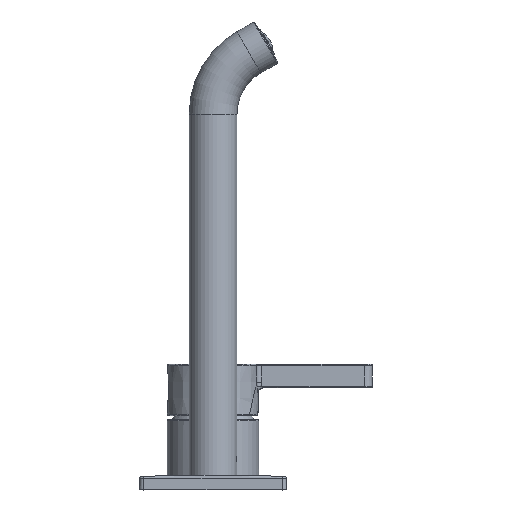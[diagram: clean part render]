
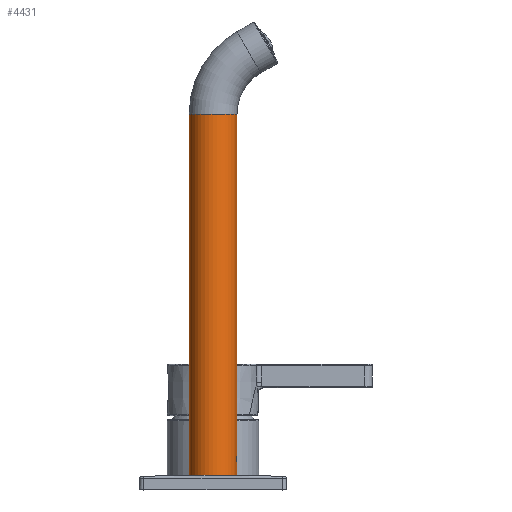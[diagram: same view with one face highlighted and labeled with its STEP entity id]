
A CAD part, left-side view. The second image highlights one B-rep face of the part: STEP entity #4431.
In plain terms, the highlighted cylindrical face has radius 12 mm (diameter 24 mm), a partial arc.
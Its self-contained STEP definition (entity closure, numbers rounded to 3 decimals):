
#749=CARTESIAN_POINT('',(-100.,-12.,37.977));
#751=DIRECTION('',(0.,0.,-1.));
#752=VECTOR('',#751,181.323);
#753=CARTESIAN_POINT('',(-100.,12.,209.));
#754=LINE('',#753,#752);
#789=CARTESIAN_POINT('',(-102.007,-11.831,35.26));
#790=CARTESIAN_POINT('',(-101.94,-11.842,35.041));
#791=CARTESIAN_POINT('',(-101.744,-11.875,34.647));
#792=CARTESIAN_POINT('',(-101.268,-11.937,34.157));
#793=CARTESIAN_POINT('',(-100.663,-11.987,33.849));
#794=CARTESIAN_POINT('',(-100.229,-12.,33.777));
#795=CARTESIAN_POINT('',(-100.,-12.,33.777));
#797=DIRECTION('',(0.,0.,-1.));
#798=VECTOR('',#797,6.1);
#799=CARTESIAN_POINT('',(-100.,-12.,33.777));
#800=LINE('',#799,#798);
#801=DIRECTION('',(0.,0.,-1.));
#802=VECTOR('',#801,171.023);
#803=CARTESIAN_POINT('',(-100.,-12.,209.));
#804=LINE('',#803,#802);
#805=CARTESIAN_POINT('',(-100.,-12.,37.977));
#806=CARTESIAN_POINT('',(-100.228,-12.,37.977));
#807=CARTESIAN_POINT('',(-100.661,-11.987,37.907));
#808=CARTESIAN_POINT('',(-101.265,-11.937,37.599));
#809=CARTESIAN_POINT('',(-101.742,-11.875,37.111));
#810=CARTESIAN_POINT('',(-101.939,-11.842,36.715));
#811=CARTESIAN_POINT('',(-102.007,-11.831,36.495));
#813=CARTESIAN_POINT('',(-102.007,-11.831,35.26));
#814=CARTESIAN_POINT('',(-102.068,-11.821,35.396));
#815=CARTESIAN_POINT('',(-102.145,-11.807,35.671));
#816=CARTESIAN_POINT('',(-102.145,-11.807,36.083));
#817=CARTESIAN_POINT('',(-102.068,-11.821,36.358));
#818=CARTESIAN_POINT('',(-102.007,-11.831,36.495));
#854=CARTESIAN_POINT('',(-100.,0.,27.677));
#855=DIRECTION('',(0.,0.,1.));
#856=DIRECTION('',(0.,1.,0.));
#857=AXIS2_PLACEMENT_3D('',#854,#855,#856);
#1988=CARTESIAN_POINT('',(-100.,0.,209.));
#1989=DIRECTION('',(0.,0.,-1.));
#1990=DIRECTION('',(0.,-1.,0.));
#1991=AXIS2_PLACEMENT_3D('',#1988,#1989,#1990);
#3575=CARTESIAN_POINT('',(-100.,12.,209.));
#3576=CARTESIAN_POINT('',(-100.,-12.,209.));
#3577=VERTEX_POINT('',#3575);
#3578=VERTEX_POINT('',#3576);
#3581=VERTEX_POINT('',#749);
#3582=CARTESIAN_POINT('',(-100.,12.,27.677));
#3583=VERTEX_POINT('',#3582);
#3584=CARTESIAN_POINT('',(-100.,-12.,27.677));
#3585=VERTEX_POINT('',#3584);
#3586=CARTESIAN_POINT('',(-100.,-12.,33.777));
#3587=VERTEX_POINT('',#3586);
#3598=VERTEX_POINT('',#789);
#3599=VERTEX_POINT('',#818);
#4412=CARTESIAN_POINT('',(-100.,0.,24.177));
#4413=DIRECTION('',(0.,0.,1.));
#4414=DIRECTION('',(0.,-1.,0.));
#4415=AXIS2_PLACEMENT_3D('',#4412,#4413,#4414);
#4416=CYLINDRICAL_SURFACE('',#4415,12.);
#4418=ORIENTED_EDGE('',*,*,#4417,.F.);
#4419=ORIENTED_EDGE('',*,*,#4405,.T.);
#4420=ORIENTED_EDGE('',*,*,#4369,.T.);
#4422=ORIENTED_EDGE('',*,*,#4421,.F.);
#4423=ORIENTED_EDGE('',*,*,#4365,.F.);
#4425=ORIENTED_EDGE('',*,*,#4424,.F.);
#4426=ORIENTED_EDGE('',*,*,#4362,.T.);
#4428=ORIENTED_EDGE('',*,*,#4427,.T.);
#4429=EDGE_LOOP('',(#4418,#4419,#4420,#4422,#4423,#4425,#4426,#4428));
#4430=FACE_OUTER_BOUND('',#4429,.F.);
#4431=ADVANCED_FACE('',(#4430),#4416,.T.);
#796=B_SPLINE_CURVE_WITH_KNOTS('',3,(#789,#790,#791,#792,#793,#794,#795),
.UNSPECIFIED.,.F.,.F.,(4,1,1,1,4),(0.,0.25,0.5,0.75,1.),
.UNSPECIFIED.);
#812=B_SPLINE_CURVE_WITH_KNOTS('',3,(#805,#806,#807,#808,#809,#810,#811),
.UNSPECIFIED.,.F.,.F.,(4,1,1,1,4),(0.,0.25,0.5,0.75,1.),
.UNSPECIFIED.);
#819=B_SPLINE_CURVE_WITH_KNOTS('',3,(#813,#814,#815,#816,#817,#818),
.UNSPECIFIED.,.F.,.F.,(4,1,1,4),(0.,0.333,0.667,1.),
.UNSPECIFIED.);
#858=CIRCLE('',#857,12.);
#1992=CIRCLE('',#1991,12.);
#4362=EDGE_CURVE('',#3578,#3581,#804,.T.);
#4365=EDGE_CURVE('',#3577,#3583,#754,.T.);
#4369=EDGE_CURVE('',#3587,#3585,#800,.T.);
#4405=EDGE_CURVE('',#3598,#3587,#796,.T.);
#4417=EDGE_CURVE('',#3598,#3599,#819,.T.);
#4421=EDGE_CURVE('',#3583,#3585,#858,.T.);
#4424=EDGE_CURVE('',#3578,#3577,#1992,.T.);
#4427=EDGE_CURVE('',#3581,#3599,#812,.T.);
